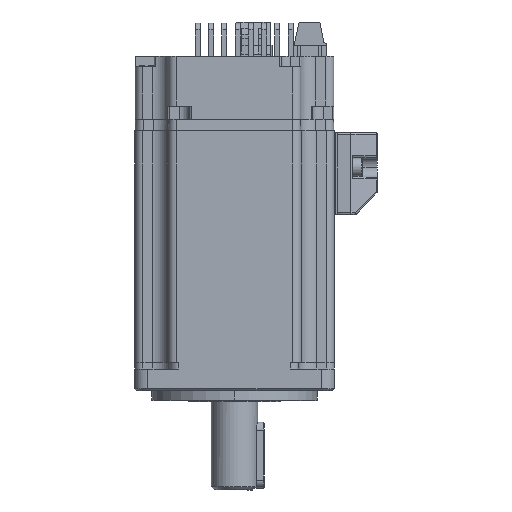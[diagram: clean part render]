
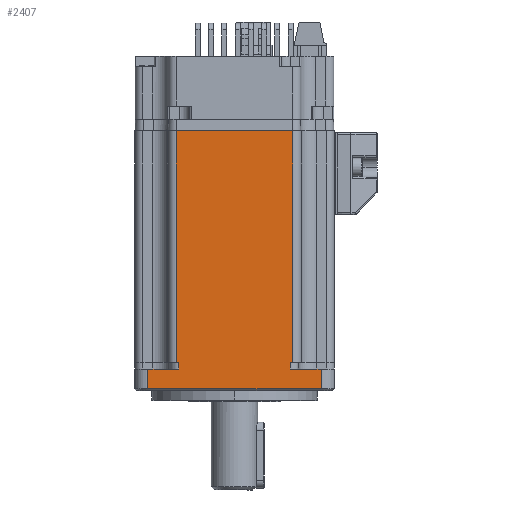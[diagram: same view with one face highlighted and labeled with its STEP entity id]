
A CAD part, front view. The second image highlights one B-rep face of the part: STEP entity #2407.
In plain terms, the highlighted planar face has unit normal (0, -1, 0).
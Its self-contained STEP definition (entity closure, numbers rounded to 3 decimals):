
#2407 = ADVANCED_FACE ( 'NONE', ( #71700 ), #22042, .F. ) ;
#2902 = ORIENTED_EDGE ( 'NONE', *, *, #32473, .T. ) ;
#3522 = CARTESIAN_POINT ( 'NONE',  ( 67.221, -33.318, -63.009 ) ) ;
#5509 = CARTESIAN_POINT ( 'NONE',  ( 23.421, -33.318, -65.009 ) ) ;
#5802 = VECTOR ( 'NONE', #167599, 1000. ) ;
#7725 = VERTEX_POINT ( 'NONE', #60012 ) ;
#7925 = VERTEX_POINT ( 'NONE', #98974 ) ;
#8600 = DIRECTION ( 'NONE',  ( -1., 0., 0. ) ) ;
#8632 = CARTESIAN_POINT ( 'NONE',  ( 49.571, -33.318, -63.009 ) ) ;
#9784 = DIRECTION ( 'NONE',  ( 1., 0., 0. ) ) ;
#12856 = LINE ( 'NONE', #132408, #55952 ) ;
#12922 = ORIENTED_EDGE ( 'NONE', *, *, #63992, .T. ) ;
#13403 = ORIENTED_EDGE ( 'NONE', *, *, #142133, .T. ) ;
#18182 = CARTESIAN_POINT ( 'NONE',  ( 67.221, -33.318, 7.891 ) ) ;
#19005 = ORIENTED_EDGE ( 'NONE', *, *, #35113, .T. ) ;
#19096 = VERTEX_POINT ( 'NONE', #3522 ) ;
#22042 = PLANE ( 'NONE',  #157898 ) ;
#22383 = CARTESIAN_POINT ( 'NONE',  ( 75.721, -33.318, -65.009 ) ) ;
#22585 = CARTESIAN_POINT ( 'NONE',  ( 75.721, -33.318, -71.009 ) ) ;
#32473 = EDGE_CURVE ( 'NONE', #7925, #147859, #47431, .T. ) ;
#35113 = EDGE_CURVE ( 'NONE', #77016, #47114, #139238, .T. ) ;
#35347 = CARTESIAN_POINT ( 'NONE',  ( 31.921, -33.318, 6.891 ) ) ;
#36069 = VECTOR ( 'NONE', #162617, 1000. ) ;
#36563 = LINE ( 'NONE', #63976, #143437 ) ;
#37234 = CARTESIAN_POINT ( 'NONE',  ( 32.721, -33.318, -63.009 ) ) ;
#39058 = VECTOR ( 'NONE', #9784, 1000. ) ;
#40501 = ORIENTED_EDGE ( 'NONE', *, *, #104858, .T. ) ;
#40696 = VERTEX_POINT ( 'NONE', #62073 ) ;
#40759 = EDGE_CURVE ( 'NONE', #118887, #80638, #115775, .T. ) ;
#40844 = DIRECTION ( 'NONE',  ( 0., 0., -1. ) ) ;
#44383 = CARTESIAN_POINT ( 'NONE',  ( 66.421, -33.318, -65.009 ) ) ;
#47114 = VERTEX_POINT ( 'NONE', #44383 ) ;
#47381 = CARTESIAN_POINT ( 'NONE',  ( 31.921, -33.318, 7.891 ) ) ;
#47431 = LINE ( 'NONE', #22585, #39058 ) ;
#48206 = DIRECTION ( 'NONE',  ( 0., 0., -1. ) ) ;
#48531 = EDGE_CURVE ( 'NONE', #80638, #136551, #36563, .T. ) ;
#50109 = CARTESIAN_POINT ( 'NONE',  ( 32.721, -33.318, -63.009 ) ) ;
#50604 = CARTESIAN_POINT ( 'NONE',  ( 66.421, -33.318, -63.009 ) ) ;
#52594 = ORIENTED_EDGE ( 'NONE', *, *, #54724, .T. ) ;
#53193 = CARTESIAN_POINT ( 'NONE',  ( 67.221, -33.318, 6.891 ) ) ;
#54452 = VECTOR ( 'NONE', #131851, 1000. ) ;
#54724 = EDGE_CURVE ( 'NONE', #7725, #118887, #109410, .T. ) ;
#55952 = VECTOR ( 'NONE', #157266, 1000. ) ;
#56517 = EDGE_CURVE ( 'NONE', #124641, #161153, #137986, .T. ) ;
#57160 = ORIENTED_EDGE ( 'NONE', *, *, #40759, .T. ) ;
#59778 = DIRECTION ( 'NONE',  ( 0., 1., 0. ) ) ;
#60012 = CARTESIAN_POINT ( 'NONE',  ( 31.921, -33.318, -63.009 ) ) ;
#62073 = CARTESIAN_POINT ( 'NONE',  ( 66.421, -33.318, -63.009 ) ) ;
#63976 = CARTESIAN_POINT ( 'NONE',  ( 19.421, -33.318, -65.009 ) ) ;
#63992 = EDGE_CURVE ( 'NONE', #124641, #7725, #95181, .T. ) ;
#65315 = CARTESIAN_POINT ( 'NONE',  ( 75.721, -33.318, 7.891 ) ) ;
#71700 = FACE_OUTER_BOUND ( 'NONE', #78993, .T. ) ;
#73362 = DIRECTION ( 'NONE',  ( 0., 0., 1. ) ) ;
#74199 = CARTESIAN_POINT ( 'NONE',  ( 19.421, -33.318, 7.891 ) ) ;
#77016 = VERTEX_POINT ( 'NONE', #22383 ) ;
#78329 = VECTOR ( 'NONE', #48206, 1000. ) ;
#78993 = EDGE_LOOP ( 'NONE', ( #40501, #2902, #127785, #19005, #128744, #13403, #122429, #108904, #12922, #52594, #57160, #144628 ) ) ;
#80638 = VERTEX_POINT ( 'NONE', #122525 ) ;
#81391 = VECTOR ( 'NONE', #40844, 1000. ) ;
#81788 = EDGE_CURVE ( 'NONE', #40696, #47114, #129101, .T. ) ;
#90945 = DIRECTION ( 'NONE',  ( 0., 0., -1. ) ) ;
#92824 = VECTOR ( 'NONE', #90945, 1000. ) ;
#94242 = LINE ( 'NONE', #18182, #36069 ) ;
#95181 = LINE ( 'NONE', #47381, #78329 ) ;
#98974 = CARTESIAN_POINT ( 'NONE',  ( 23.421, -33.318, -71.009 ) ) ;
#101645 = CARTESIAN_POINT ( 'NONE',  ( 19.421, -33.318, -65.009 ) ) ;
#104858 = EDGE_CURVE ( 'NONE', #136551, #7925, #145781, .T. ) ;
#108904 = ORIENTED_EDGE ( 'NONE', *, *, #56517, .F. ) ;
#109410 = LINE ( 'NONE', #8632, #139044 ) ;
#115775 = LINE ( 'NONE', #50109, #92824 ) ;
#117363 = LINE ( 'NONE', #65315, #54452 ) ;
#118887 = VERTEX_POINT ( 'NONE', #37234 ) ;
#122246 = DIRECTION ( 'NONE',  ( 1., 0., 0. ) ) ;
#122429 = ORIENTED_EDGE ( 'NONE', *, *, #151847, .T. ) ;
#122525 = CARTESIAN_POINT ( 'NONE',  ( 32.721, -33.318, -65.009 ) ) ;
#124641 = VERTEX_POINT ( 'NONE', #35347 ) ;
#125404 = EDGE_CURVE ( 'NONE', #147859, #77016, #117363, .T. ) ;
#127785 = ORIENTED_EDGE ( 'NONE', *, *, #125404, .T. ) ;
#128597 = DIRECTION ( 'NONE',  ( 1., 0., 0. ) ) ;
#128744 = ORIENTED_EDGE ( 'NONE', *, *, #81788, .F. ) ;
#129101 = LINE ( 'NONE', #50604, #5802 ) ;
#130074 = VECTOR ( 'NONE', #8600, 1000. ) ;
#130499 = CARTESIAN_POINT ( 'NONE',  ( 23.421, -33.318, 7.891 ) ) ;
#131851 = DIRECTION ( 'NONE',  ( 0., 0., 1. ) ) ;
#132408 = CARTESIAN_POINT ( 'NONE',  ( 49.571, -33.318, -63.009 ) ) ;
#136551 = VERTEX_POINT ( 'NONE', #5509 ) ;
#137986 = LINE ( 'NONE', #154230, #161784 ) ;
#139044 = VECTOR ( 'NONE', #122246, 1000. ) ;
#139238 = LINE ( 'NONE', #101645, #130074 ) ;
#142133 = EDGE_CURVE ( 'NONE', #40696, #19096, #12856, .T. ) ;
#143437 = VECTOR ( 'NONE', #154433, 1000. ) ;
#144628 = ORIENTED_EDGE ( 'NONE', *, *, #48531, .T. ) ;
#145781 = LINE ( 'NONE', #130499, #81391 ) ;
#147859 = VERTEX_POINT ( 'NONE', #148568 ) ;
#148568 = CARTESIAN_POINT ( 'NONE',  ( 75.721, -33.318, -71.009 ) ) ;
#151847 = EDGE_CURVE ( 'NONE', #19096, #161153, #94242, .T. ) ;
#154230 = CARTESIAN_POINT ( 'NONE',  ( 19.421, -33.318, 6.891 ) ) ;
#154433 = DIRECTION ( 'NONE',  ( -1., 0., 0. ) ) ;
#157266 = DIRECTION ( 'NONE',  ( 1., 0., 0. ) ) ;
#157898 = AXIS2_PLACEMENT_3D ( 'NONE', #74199, #59778, #73362 ) ;
#161153 = VERTEX_POINT ( 'NONE', #53193 ) ;
#161784 = VECTOR ( 'NONE', #128597, 1000. ) ;
#162617 = DIRECTION ( 'NONE',  ( 0., 0., 1. ) ) ;
#167599 = DIRECTION ( 'NONE',  ( 0., 0., -1. ) ) ;
